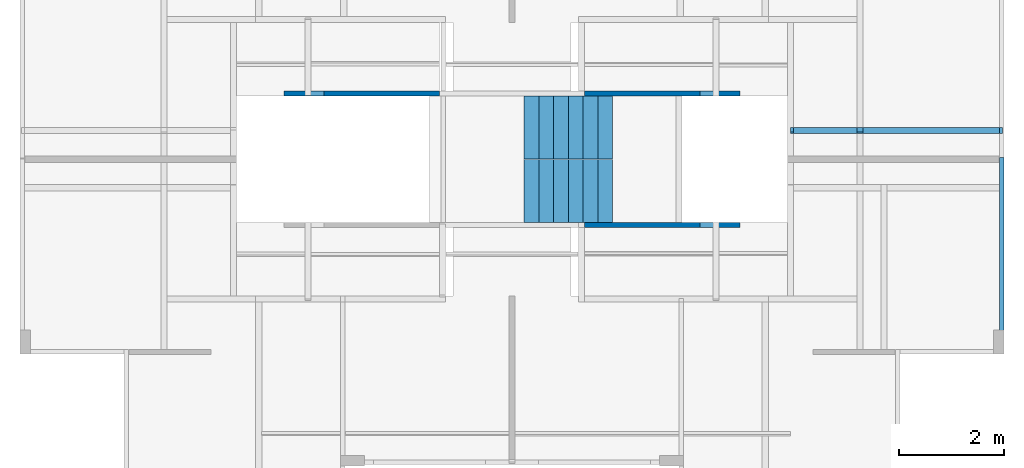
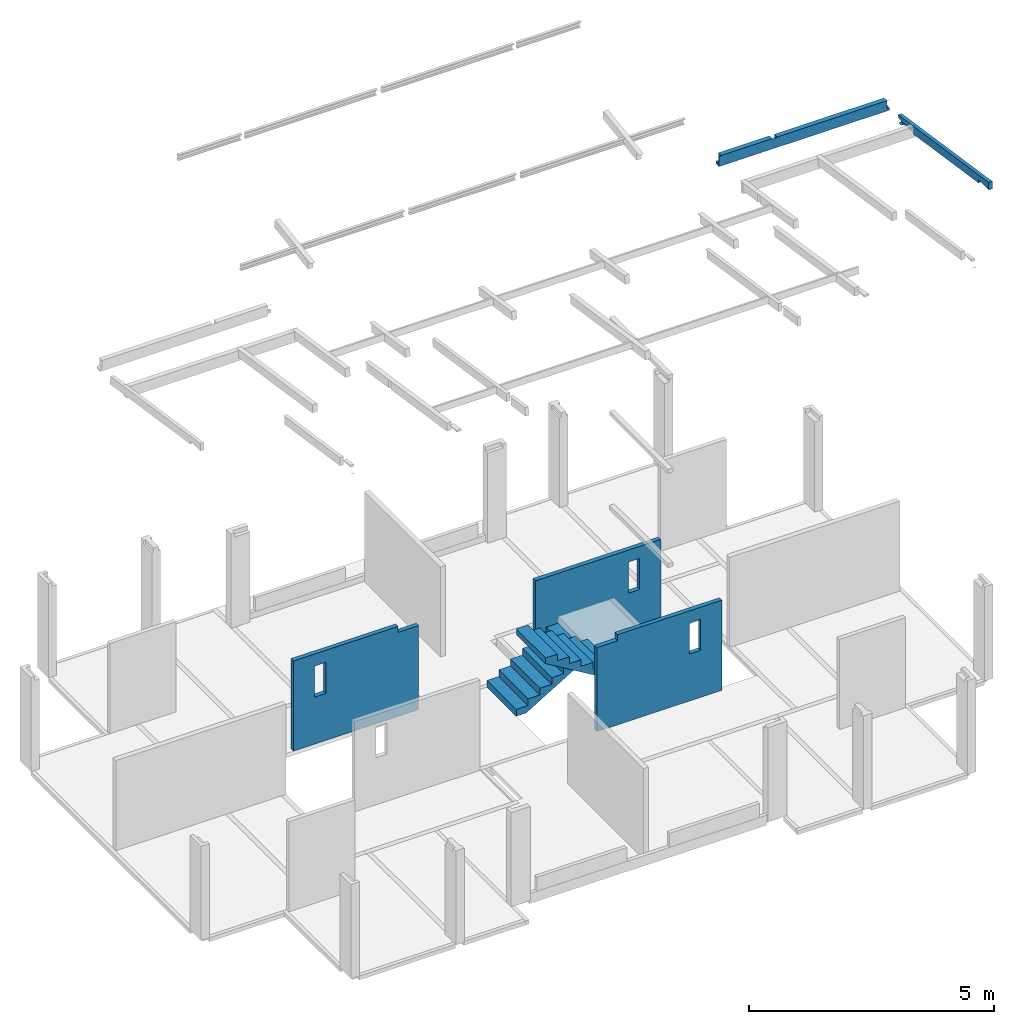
# One storey, part 9 of 9: 3 walls, 2 beams, 2 stair flights, 5 openings, 1 element without a shape of its own.
"""IFC4 building model written with IfcOpenShell, lengths in metres."""

from ifc_helpers import new_model, entity, si_unit, converted_unit, derived_unit, direction, frame, origin, place, context, subcontext, project, spatial, indexed_curve, outline, extrude, polygons, source, transform, mapped, material, type_object, type_shapes, element, aggregate, save


model = new_model("IFC4")

# Units and contexts
model_context = context("Model", 3, precision=1e-05, world=origin(), true_north=direction((6.123031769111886e-17, 1.0)))
body_context = subcontext(model_context, "Body", "Model", "MODEL_VIEW")
ifc_project = project(units=[si_unit("LENGTHUNIT", "METRE"), si_unit("AREAUNIT", "SQUARE_METRE"), si_unit("VOLUMEUNIT", "CUBIC_METRE"), converted_unit("PLANEANGLEUNIT", "DEGREE", entity("IfcRatioMeasure", 0.017453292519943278), si_unit("PLANEANGLEUNIT", "RADIAN"), dimensions=[0, 0, 0, 0, 0, 0, 0]), si_unit("MASSUNIT", "GRAM", prefix="KILO"), derived_unit("MASSDENSITYUNIT", [(si_unit("MASSUNIT", "GRAM", prefix="KILO"), 1), (si_unit("LENGTHUNIT", "METRE"), -3)]), derived_unit("IONCONCENTRATIONUNIT", [(si_unit("MASSUNIT", "GRAM", prefix="KILO"), 1), (si_unit("LENGTHUNIT", "METRE"), -3)]), derived_unit("MOMENTOFINERTIAUNIT", [(si_unit("LENGTHUNIT", "METRE"), 4)]), si_unit("TIMEUNIT", "SECOND"), si_unit("FREQUENCYUNIT", "HERTZ"), si_unit("THERMODYNAMICTEMPERATUREUNIT", "DEGREE_CELSIUS"), derived_unit("THERMALTRANSMITTANCEUNIT", [(si_unit("MASSUNIT", "GRAM", prefix="KILO"), 1), (si_unit("THERMODYNAMICTEMPERATUREUNIT", "KELVIN"), -1), (si_unit("TIMEUNIT", "SECOND"), -3)]), derived_unit("THERMALCONDUCTANCEUNIT", [(si_unit("MASSUNIT", "GRAM", prefix="KILO"), 1), (si_unit("THERMODYNAMICTEMPERATUREUNIT", "KELVIN"), -1), (si_unit("TIMEUNIT", "SECOND"), -3), (si_unit("LENGTHUNIT", "METRE"), 1)]), derived_unit("VOLUMETRICFLOWRATEUNIT", [(si_unit("LENGTHUNIT", "METRE"), 3), (si_unit("TIMEUNIT", "SECOND"), -1)]), derived_unit("MASSFLOWRATEUNIT", [(si_unit("MASSUNIT", "GRAM", prefix="KILO"), 1), (si_unit("TIMEUNIT", "SECOND"), -1)]), derived_unit("ROTATIONALFREQUENCYUNIT", [(si_unit("TIMEUNIT", "SECOND"), -1)]), si_unit("ELECTRICCURRENTUNIT", "AMPERE"), si_unit("ELECTRICVOLTAGEUNIT", "VOLT"), si_unit("POWERUNIT", "WATT"), si_unit("FORCEUNIT", "NEWTON", prefix="KILO"), si_unit("ILLUMINANCEUNIT", "LUX"), si_unit("LUMINOUSFLUXUNIT", "LUMEN"), si_unit("LUMINOUSINTENSITYUNIT", "CANDELA"), derived_unit("USERDEFINED", [(si_unit("MASSUNIT", "GRAM", prefix="KILO"), -1), (si_unit("LENGTHUNIT", "METRE"), -2), (si_unit("TIMEUNIT", "SECOND"), 3), (si_unit("LUMINOUSFLUXUNIT", "LUMEN"), 1)]), derived_unit("USERDEFINED", [(si_unit("MASSUNIT", "GRAM", prefix="KILO"), 1), (si_unit("TIMEUNIT", "SECOND"), -3), (si_unit("LENGTHUNIT", "METRE"), 3), (si_unit("ELECTRICCURRENTUNIT", "AMPERE"), -2)]), derived_unit("SOUNDPOWERUNIT", [(si_unit("MASSUNIT", "GRAM", prefix="KILO"), 1), (si_unit("TIMEUNIT", "SECOND"), -3), (si_unit("LENGTHUNIT", "METRE"), 2)]), derived_unit("SOUNDPRESSUREUNIT", [(si_unit("MASSUNIT", "GRAM", prefix="KILO"), 1), (si_unit("LENGTHUNIT", "METRE"), -1), (si_unit("TIMEUNIT", "SECOND"), -2)]), derived_unit("LINEARVELOCITYUNIT", [(si_unit("LENGTHUNIT", "METRE"), 1), (si_unit("TIMEUNIT", "SECOND"), -1)]), si_unit("PRESSUREUNIT", "PASCAL"), derived_unit("USERDEFINED", [(si_unit("MASSUNIT", "GRAM", prefix="KILO"), 1), (si_unit("LENGTHUNIT", "METRE"), -2), (si_unit("TIMEUNIT", "SECOND"), -2)]), derived_unit("LINEARFORCEUNIT", [(si_unit("MASSUNIT", "GRAM", prefix="KILO"), 1), (si_unit("TIMEUNIT", "SECOND"), -2)]), derived_unit("PLANARFORCEUNIT", [(si_unit("MASSUNIT", "GRAM", prefix="KILO"), 1), (si_unit("LENGTHUNIT", "METRE"), -1), (si_unit("TIMEUNIT", "SECOND"), -2)]), derived_unit("SPECIFICHEATCAPACITYUNIT", [(si_unit("THERMODYNAMICTEMPERATUREUNIT", "KELVIN"), -1), (si_unit("LENGTHUNIT", "METRE"), 2), (si_unit("TIMEUNIT", "SECOND"), -2)]), derived_unit("HEATINGVALUEUNIT", [(si_unit("LENGTHUNIT", "METRE"), 2), (si_unit("TIMEUNIT", "SECOND"), -2)]), derived_unit("VAPORPERMEABILITYUNIT", [(si_unit("LENGTHUNIT", "METRE"), -1), (si_unit("TIMEUNIT", "SECOND"), 1)]), derived_unit("DYNAMICVISCOSITYUNIT", [(si_unit("MASSUNIT", "GRAM", prefix="KILO"), 1), (si_unit("TIMEUNIT", "SECOND"), -1), (si_unit("LENGTHUNIT", "METRE"), -1)]), derived_unit("THERMALEXPANSIONCOEFFICIENTUNIT", [(si_unit("THERMODYNAMICTEMPERATUREUNIT", "KELVIN"), -1)]), derived_unit("MODULUSOFELASTICITYUNIT", [(si_unit("MASSUNIT", "GRAM", prefix="KILO"), 1), (si_unit("LENGTHUNIT", "METRE"), -1), (si_unit("TIMEUNIT", "SECOND"), -2)]), derived_unit("ISOTHERMALMOISTURECAPACITYUNIT", [(si_unit("LENGTHUNIT", "METRE"), 3), (si_unit("MASSUNIT", "GRAM", prefix="KILO"), -1)]), derived_unit("MOISTUREDIFFUSIVITYUNIT", [(si_unit("TIMEUNIT", "SECOND"), -1), (si_unit("LENGTHUNIT", "METRE"), 2)])], contexts=[model_context])

# Site, building, storey
site_placement = place(None, origin())
site = spatial("IfcSite", under=ifc_project, at=site_placement, Name="Default", CompositionType="ELEMENT")
building_placement = place(site_placement, origin())
building = spatial("IfcBuilding", under=site, at=building_placement, Name="Las nubes", CompositionType="ELEMENT")
storey_placement = place(building_placement, frame((0.0, 0.0, 2.3500000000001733)))
storey = spatial("IfcBuildingStorey", under=building, at=storey_placement, Name="PISO 2", CompositionType="ELEMENT", Elevation=2.3500000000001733)

# Beams
ifc_material_1 = material(Name="Concrete, Cast In Situ", Category="Materials")
beam_type_1 = type_object("IfcBeamType", Name="M_Concrete-Rectangular Beam:(0.085x0.20)", PredefinedType="BEAM", material=ifc_material_1)
shared_shape_1 = source(origin(), body_context, "Body", "Tessellation", [
    polygons([(3.248601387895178e-14, 3.704516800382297, -0.5556775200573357), (3.248601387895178e-14, 3.6724999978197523, -0.5508749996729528), (2.815454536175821e-14, 3.187499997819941, -0.4781249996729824), (2.815454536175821e-14, 3.1799999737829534, -0.47699999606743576), (0.0, 0.0, -2.1657342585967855e-15), (0.08500000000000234, 0.0, -2.1657342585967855e-15), (0.08500000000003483, 3.6724999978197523, -0.5508749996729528), (0.08500000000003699, 3.704516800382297, -0.5556775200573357), (0.08500000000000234, 0.0, -0.18699999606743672), (0.08500000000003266, 0.4225000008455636, -0.18699999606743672), (0.08500000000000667, 0.42250000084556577, -0.2656124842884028), (0.08500000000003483, 3.670043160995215, -0.7527439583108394), (0.08500000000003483, 3.6724999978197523, -0.7531124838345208), (0.08500000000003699, 3.674848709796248, -0.7534647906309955), (0.08500000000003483, 3.674956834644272, -0.7527439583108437), (3.248601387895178e-14, 3.67484870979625, -0.7534647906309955), (4.331468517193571e-15, 0.4225000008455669, -0.2656124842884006), (2.5988811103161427e-14, 3.0724999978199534, -0.6631124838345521), (0.05749999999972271, 3.0724999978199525, -0.6631124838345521), (0.05749999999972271, 3.5650834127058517, -0.7369999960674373), (3.248601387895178e-14, 3.565083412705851, -0.7369999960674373), (3.248601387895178e-14, 3.670043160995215, -0.7527439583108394), (3.248601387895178e-14, 3.6724999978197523, -0.7531124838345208), (3.248601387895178e-14, 3.677318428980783, -0.7369999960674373), (3.248601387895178e-14, 3.674956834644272, -0.7527439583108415), (0.05749999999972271, 3.6773184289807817, -0.7369999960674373), (0.05749999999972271, 3.0724999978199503, -0.6369999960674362), (2.5988811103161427e-14, 3.0724999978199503, -0.6369999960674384), (3.248601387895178e-14, 3.6923184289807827, -0.6369999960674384), (0.05749999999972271, 3.6923184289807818, -0.6369999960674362), (0.057499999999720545, 3.187499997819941, -0.6369999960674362), (4.331468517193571e-15, 0.4225000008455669, -0.18699999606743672), (0.0, 0.0, -0.18699999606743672)], [[[1, 2, 3, 4, 5, 6, 7, 8]], [[8, 7, 6, 9, 10, 11, 12, 13, 14, 15]], [[16, 14, 13, 12, 11, 17, 18, 19, 20, 21, 22, 23]], [[24, 25, 16, 23, 22, 21]], [[20, 26, 24, 21]], [[27, 28, 29, 30, 31]], [[28, 27, 19, 18]], [[27, 31, 30, 26, 20, 19]], [[1, 8, 15, 14, 16, 25, 24, 26, 30, 29]], [[5, 4, 3, 2, 1, 29, 28, 18, 17, 32, 33]], [[6, 5, 33, 9]], [[10, 32, 17, 11]], [[32, 10, 9, 33]]], closed=True),
])
type_shapes(beam_type_1, [shared_shape_1])
beam_1_placement = place(storey_placement, frame((18.587500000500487, -10.09750002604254, 12.386999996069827)))
element("IfcBeam", 1, at=beam_1_placement, inside=storey, type_object=beam_type_1, material=ifc_material_1, Name="M_Concrete-Rectangular Beam:(0.085x0.20)", ObjectType="M_Concrete-Rectangular Beam:(0.085x0.20)", PredefinedType="BEAM", context=body_context, shape_type="MappedRepresentation", body=[
    mapped(shared_shape_1, transform((0.0, 0.0, 0.0), scale=1.0)),
])
beam_type_2 = type_object("IfcBeamType", Name="M_Concrete-Rectangular Beam:(0.115x0.26)", PredefinedType="BEAM", material=ifc_material_1)
shared_shape_2 = source(origin(), body_context, "Body", "Tessellation", [
    polygons([(-2.1657342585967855e-15, 0.11500000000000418, 0.0), (-2.1657342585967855e-15, 0.052500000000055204, 2.1657342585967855e-15), (-2.1657342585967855e-15, 0.0, 0.0), (-2.1657342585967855e-15, 1.0828671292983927e-15, 0.25273873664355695), (-2.1657342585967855e-15, 0.028767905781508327, 0.06095269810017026), (-2.1657342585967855e-15, 0.05250000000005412, 0.06451251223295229), (-2.1657342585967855e-15, 0.1150000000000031, 0.07388751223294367), (4.029999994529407, 1.2994405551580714e-14, 0.0), (4.029999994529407, 0.11500000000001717, 0.0), (4.029999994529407, 0.11500000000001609, 0.07388751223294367), (4.029999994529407, 1.4077272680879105e-14, 0.05663751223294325), (-2.1657342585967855e-15, 1.0828671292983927e-15, 0.26000000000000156), (4.029999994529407, 1.4077272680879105e-14, 0.26000000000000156), (4.029999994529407, 0.007500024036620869, 0.26000000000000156), (3.972499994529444, 0.007500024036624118, 0.26000000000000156), (3.972499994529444, 0.11500000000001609, 0.26000000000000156), (1.37749893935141, 0.11500000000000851, 0.26000000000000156), (1.37749893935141, 0.007500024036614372, 0.26000000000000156), (1.2624989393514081, 0.0075000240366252, 0.26000000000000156), (1.2624989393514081, 0.11500000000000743, 0.26000000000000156), (0.05750000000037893, 0.11500000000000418, 0.26000000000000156), (0.05750000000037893, 0.007500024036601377, 0.26000000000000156), (-2.1657342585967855e-15, 0.007500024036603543, 0.26000000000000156), (-2.1657342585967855e-15, 1.0828671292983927e-15, 0.25887499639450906), (0.05750000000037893, 1.0828671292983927e-15, 0.25887499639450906), (0.0575000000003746, 1.0828671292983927e-15, 0.25273873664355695), (0.057500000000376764, 1.0828671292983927e-15, 2.1657342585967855e-15), (3.972499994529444, 1.4077272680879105e-14, 0.05663751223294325), (3.972499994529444, 1.4077272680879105e-14, 0.25887499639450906), (4.029999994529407, 1.4077272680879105e-14, 0.2588749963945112), (1.37749893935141, 5.4143356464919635e-15, 0.25273873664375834), (1.2624989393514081, 5.4143356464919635e-15, 0.25273873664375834), (1.2624989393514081, 5.4143356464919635e-15, 0.2588749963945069), (1.37749893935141, 5.4143356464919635e-15, 0.25887499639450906), (0.05750000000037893, 0.11500000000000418, 0.07388751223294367), (1.2624989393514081, 0.11500000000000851, 0.07388751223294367), (1.37749893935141, 0.11500000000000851, 0.0738875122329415), (3.972499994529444, 0.11500000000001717, 0.07388751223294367), (1.37749893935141, 0.028767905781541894, 0.06095269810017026), (1.2624989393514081, 0.028767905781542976, 0.06095269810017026), (1.262498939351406, 0.022910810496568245, 0.10000000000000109), (1.37749893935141, 0.022910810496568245, 0.10000000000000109), (0.05750000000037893, 0.02876790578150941, 0.060952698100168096)], [[[1, 2, 3, 4, 5, 6, 7]], [[8, 9, 10, 11]], [[12, 13, 14, 15, 16, 17, 18, 19, 20, 21, 22, 23]], [[13, 12, 24, 25, 26, 4, 3, 27, 8, 11, 28, 29, 30], [31, 32, 33, 34]], [[3, 2, 1, 9, 8, 27]], [[9, 1, 7, 35, 21, 20, 36, 37, 17, 16, 38, 10]], [[39, 40, 41, 32, 31, 42]], [[33, 19, 18, 34]], [[39, 42, 31, 34, 18, 17, 37]], [[40, 39, 37, 36]], [[32, 41, 40, 36, 20, 19, 33]], [[29, 15, 14, 30]], [[28, 11, 10, 38]], [[15, 29, 28, 38, 16]], [[26, 43, 5, 4]], [[22, 25, 24, 23]], [[43, 26, 25, 22, 21, 35]], [[5, 43, 35, 7, 6]], [[12, 23, 24]], [[14, 13, 30]]], closed=True),
])
type_shapes(beam_type_2, [shared_shape_2])
beam_2_placement = place(storey_placement, frame((14.61500000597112, -5.9400000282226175, 11.649999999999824)))
element("IfcBeam", 2, at=beam_2_placement, inside=storey, type_object=beam_type_2, material=ifc_material_1, Name="M_Concrete-Rectangular Beam:(0.115x0.26)", ObjectType="M_Concrete-Rectangular Beam:(0.115x0.26)", PredefinedType="BEAM", context=body_context, shape_type="MappedRepresentation", body=[
    mapped(shared_shape_2, transform((0.0, 0.0, 0.0), scale=1.0)),
])

# Wall, opening
ifc_material_2 = material(Name="Concrete - Cast-in-Place Concrete - 35 MPa", Category="Materials")
wall_type = type_object("IfcWallType", Name="Basic Wall:MURO 10cm", PredefinedType="STANDARD")
wall_1_placement = place(storey_placement, frame((13.657500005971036, -5.175000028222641, 0.0), z_axis=(0.0, 0.0, 1.0), x_axis=(-1.0, 0.0, 0.0)))
wall_1 = element("IfcWall", 3, at=wall_1_placement, inside=storey, type_object=wall_type, material=ifc_material_2, Name="Basic Wall:MURO 10cm", ObjectType="Basic Wall:MURO 10cm", PredefinedType="NOTDEFINED", context=body_context, shape_type="Tessellation", body=[
    polygons([(4.2325258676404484e-16, -0.050000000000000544, -2.707167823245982e-16), (2.4600000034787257, -0.050000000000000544, -2.707167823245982e-16), (2.955000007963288, -0.050000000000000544, -2.707167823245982e-16), (2.955000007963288, -0.050000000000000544, 2.1000000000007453), (2.955000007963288, -0.050000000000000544, 2.2499999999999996), (2.455000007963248, -0.050000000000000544, 2.249999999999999), (4.2325258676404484e-16, -0.050000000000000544, 2.2499999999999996), (0.7651124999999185, -0.050000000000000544, 1.173712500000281), (0.4999999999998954, -0.050000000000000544, 1.173712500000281), (0.4999999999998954, -0.050000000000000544, 1.9500000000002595), (0.7651124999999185, -0.050000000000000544, 1.9500000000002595), (9.344534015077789e-17, 0.04999999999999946, -2.707167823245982e-16), (9.344534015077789e-17, 0.04999999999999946, 2.2499999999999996), (2.4550000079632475, 0.04999999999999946, 2.2499999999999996), (2.9550000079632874, 0.04999999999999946, 2.2499999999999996), (2.9550000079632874, 0.04999999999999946, 2.1000000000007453), (2.9550000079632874, 0.04999999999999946, -2.707167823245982e-16), (2.4600000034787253, 0.04999999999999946, -2.707167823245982e-16), (0.7651124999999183, 0.04999999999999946, 1.173712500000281), (0.7651124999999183, 0.04999999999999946, 1.9500000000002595), (0.4999999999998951, 0.04999999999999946, 1.9500000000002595), (0.4999999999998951, 0.04999999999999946, 1.173712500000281)], [[[1, 2, 3, 4, 5, 6, 7], [8, 9, 10, 11]], [[12, 13, 14, 15, 16, 17, 18], [19, 20, 21, 22]], [[3, 2, 1, 12, 18, 17]], [[5, 4, 3, 17, 16, 15]], [[7, 6, 5, 15, 14, 13]], [[1, 7, 13, 12]], [[9, 8, 19, 22]], [[10, 9, 22, 21]], [[11, 10, 21, 20]], [[8, 11, 20, 19]]], closed=True),
])
opening_1_placement = place(wall_1_placement, origin())
element("IfcOpeningElement", 4, at=opening_1_placement, cuts=wall_1, Name="Basic Wall:MURO 10cm", PredefinedType="OPENING", context=body_context, shape_type="SweptSolid", body=[
    extrude(outline(indexed_curve([(-0.3881437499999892, -0.1325562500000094), (0.3881437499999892, -0.1325562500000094), (0.3881437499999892, 0.13255625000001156), (-0.3881437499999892, 0.13255625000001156), (-0.3881437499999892, -0.1325562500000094)], self_intersect=False)), frame((0.6325562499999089, 0.050000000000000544, 1.5618562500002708), z_axis=(0.0, -1.0, 0.0), x_axis=(0.0, 0.0, 1.0)), (0.0, 0.0, 1.0), 0.1),
])

# Wall, openings
wall_2_placement = place(storey_placement, frame((7.942500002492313, -5.175000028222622, 0.0), z_axis=(0.0, 0.0, 1.0), x_axis=(-1.0, 0.0, 0.0)))
wall_2 = element("IfcWall", 5, at=wall_2_placement, inside=storey, type_object=wall_type, material=ifc_material_2, Name="Basic Wall:MURO 10cm", ObjectType="Basic Wall:MURO 10cm", PredefinedType="NOTDEFINED", context=body_context, shape_type="Tessellation", body=[
    polygons([(2.9550000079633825, -0.04999999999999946, 2.2499999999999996), (0.49999999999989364, -0.04999999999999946, 2.2499999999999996), (0.4900000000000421, -0.04999999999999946, 2.2499999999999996), (0.4900000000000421, -0.04999999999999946, 2.099999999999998), (8.00730484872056e-16, -0.04999999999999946, 2.099999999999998), (8.00730484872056e-16, -0.04999999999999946, -2.707167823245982e-16), (0.495000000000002, -0.04999999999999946, 0.0), (2.9550000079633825, -0.04999999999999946, -2.707167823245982e-16), (2.4550000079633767, -0.04999999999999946, 1.9500000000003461), (2.4550000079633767, -0.04999999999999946, 1.1737125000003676), (2.189887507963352, -0.04999999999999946, 1.1737125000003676), (2.189887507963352, -0.04999999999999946, 1.9500000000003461), (2.9550000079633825, 0.050000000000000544, 2.2499999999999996), (2.9550000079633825, 0.050000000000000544, -2.707167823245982e-16), (0.49500000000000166, 0.050000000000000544, -2.707167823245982e-16), (4.78288660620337e-16, 0.050000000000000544, -2.707167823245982e-16), (4.78288660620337e-16, 0.050000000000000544, 2.099999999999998), (0.4900000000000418, 0.050000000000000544, 2.099999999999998), (0.4900000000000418, 0.050000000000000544, 2.2499999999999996), (0.4999999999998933, 0.050000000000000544, 2.2499999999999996), (2.4550000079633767, 0.050000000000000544, 1.9500000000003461), (2.1898875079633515, 0.050000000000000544, 1.9500000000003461), (2.1898875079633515, 0.050000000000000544, 1.1737125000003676), (2.4550000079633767, 0.050000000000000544, 1.1737125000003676)], [[[1, 2, 3, 4, 5, 6, 7, 8], [9, 10, 11, 12]], [[13, 14, 15, 16, 17, 18, 19, 20], [21, 22, 23, 24]], [[3, 2, 1, 13, 20, 19]], [[5, 4, 18, 17]], [[4, 3, 19, 18]], [[1, 8, 14, 13]], [[6, 5, 17, 16]], [[8, 7, 6, 16, 15, 14]], [[10, 9, 21, 24]], [[11, 10, 24, 23]], [[12, 11, 23, 22]], [[9, 12, 22, 21]]], closed=True),
])
opening_2_placement = place(wall_2_placement, origin())
element("IfcOpeningElement", 6, at=opening_2_placement, cuts=wall_2, Name="Basic Wall:MURO 10cm", PredefinedType="OPENING", context=body_context, shape_type="SweptSolid", body=[
    extrude(outline(indexed_curve([(-0.13255625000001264, -0.3881437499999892), (0.13255625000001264, -0.3881437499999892), (0.13255625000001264, 0.3881437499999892), (-0.13255625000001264, 0.3881437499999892), (-0.13255625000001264, -0.3881437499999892)], self_intersect=False)), frame((2.3224437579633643, 0.04999999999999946, 1.5618562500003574), z_axis=(0.0, -1.0, 0.0), x_axis=(-1.0, 0.0, 0.0)), (0.0, 0.0, 1.0), 0.1),
])
opening_3_placement = place(wall_2_placement, origin())
element("IfcOpeningElement", 7, at=opening_3_placement, cuts=wall_2, Name="Basic Wall:MURO 10cm", PredefinedType="OPENING", context=body_context, shape_type="SweptSolid", body=[
    extrude(outline(indexed_curve([(-0.2450000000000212, -0.07500000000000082), (0.2450000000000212, -0.07500000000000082), (0.2450000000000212, 0.07500000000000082), (-0.2450000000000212, 0.07500000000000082), (-0.2450000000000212, -0.07500000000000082)], self_intersect=False)), frame((0.2450000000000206, 0.04999999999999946, 2.174999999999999), z_axis=(0.0, -1.0, 0.0), x_axis=(-1.0, 0.0, 0.0)), (0.0, 0.0, 1.0), 0.1),
])

wall_3_placement = place(storey_placement, frame((10.702499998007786, -7.675000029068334, 0.0)))
wall_3 = element("IfcWall", 8, at=wall_3_placement, inside=storey, type_object=wall_type, material=ifc_material_2, Name="Basic Wall:MURO 10cm", ObjectType="Basic Wall:MURO 10cm", PredefinedType="NOTDEFINED", context=body_context, shape_type="Tessellation", body=[
    polygons([(2.9550000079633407, -0.04999999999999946, 2.2499999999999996), (0.4900000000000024, -0.04999999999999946, 2.2499999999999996), (0.4900000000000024, -0.04999999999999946, 2.099999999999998), (1.159822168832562e-15, -0.050000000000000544, 2.099999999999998), (1.159822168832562e-15, -0.050000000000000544, -2.707167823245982e-16), (2.9550000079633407, -0.04999999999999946, -2.707167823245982e-16), (2.189887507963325, -0.04999999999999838, 1.173712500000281), (2.189887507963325, -0.04999999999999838, 1.9500000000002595), (2.455000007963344, -0.04999999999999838, 1.9500000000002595), (2.455000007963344, -0.04999999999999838, 1.173712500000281), (2.9550000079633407, 0.04999999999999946, 2.2499999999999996), (2.9550000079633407, 0.04999999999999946, -2.707167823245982e-16), (9.765959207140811e-16, 0.050000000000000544, -2.707167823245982e-16), (9.765959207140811e-16, 0.050000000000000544, 2.099999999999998), (0.49000000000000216, 0.050000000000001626, 2.099999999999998), (0.49000000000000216, 0.050000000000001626, 2.2499999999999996), (2.189887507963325, 0.050000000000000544, 1.173712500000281), (2.455000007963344, 0.050000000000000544, 1.173712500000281), (2.455000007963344, 0.050000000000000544, 1.9500000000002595), (2.189887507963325, 0.050000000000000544, 1.9500000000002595)], [[[1, 2, 3, 4, 5, 6], [7, 8, 9, 10]], [[11, 12, 13, 14, 15, 16], [17, 18, 19, 20]], [[2, 1, 11, 16]], [[4, 3, 15, 14]], [[3, 2, 16, 15]], [[1, 6, 12, 11]], [[5, 4, 14, 13]], [[6, 5, 13, 12]], [[8, 7, 17, 20]], [[9, 8, 20, 19]], [[10, 9, 19, 18]], [[7, 10, 18, 17]]], closed=True),
])
opening_4_placement = place(wall_3_placement, origin())
element("IfcOpeningElement", 9, at=opening_4_placement, cuts=wall_3, Name="Basic Wall:MURO 10cm", PredefinedType="OPENING", context=body_context, shape_type="SweptSolid", body=[
    extrude(outline(indexed_curve([(-0.1325562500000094, -0.3881437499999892), (0.13255625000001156, -0.3881437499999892), (0.13255625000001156, 0.3881437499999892), (-0.1325562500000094, 0.3881437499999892), (-0.1325562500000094, -0.3881437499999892)], self_intersect=False)), frame((2.3224437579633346, 0.04999999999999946, 1.5618562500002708), z_axis=(0.0, -1.0, 0.0), x_axis=(1.0, 0.0, 0.0)), (0.0, 0.0, 1.0), 0.1),
])
opening_5_placement = place(wall_3_placement, origin())
element("IfcOpeningElement", 10, at=opening_5_placement, cuts=wall_3, Name="Basic Wall:MURO 10cm", PredefinedType="OPENING", context=body_context, shape_type="SweptSolid", body=[
    extrude(outline(indexed_curve([(-0.2450000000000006, -0.07500000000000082), (0.2450000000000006, -0.07500000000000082), (0.2450000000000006, 0.07500000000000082), (-0.2450000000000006, 0.07500000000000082), (-0.2450000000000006, -0.07500000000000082)], self_intersect=False)), frame((0.2450000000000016, 0.050000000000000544, 2.174999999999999), z_axis=(0.0, -1.0, 0.0), x_axis=(-1.0, 0.0, 0.0)), (0.0, 0.0, 1.0), 0.1),
])

# Stair, stair flights
stair_type = type_object("IfcStairType", Name="Cast-In-Place Stair:B1080_Escalera Monolitica en Concreto", PredefinedType="HALF_TURN_STAIR")
stair_placement = place(storey_placement, origin())
stair = element("IfcStair", 11, at=stair_placement, inside=storey, type_object=stair_type, Name="Cast-In-Place Stair:Stair", ObjectType="Cast-In-Place Stair:B1080_Escalera Monolitica en Concreto", PredefinedType="HALF_TURN_STAIR")
stair_flight_type = type_object("IfcStairFlightType", Name="Monolithic Run:120mm Depth", PredefinedType="STRAIGHT")
stair_flight_1_placement = place(stair_placement, frame((9.552500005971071, -6.4250000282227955, 0.0)))
stair_flight_1 = element("IfcStairFlight", 12, at=stair_flight_1_placement, type_object=stair_flight_type, material=ifc_material_1, Name="Cast-In-Place Stair:Stair:524135 Run 1", ObjectType="Monolithic Run:120mm Depth", PredefinedType="STRAIGHT", context=body_context, shape_type="Tessellation", body=[
    polygons([(0.27999999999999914, 1.2000000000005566, 0.16785714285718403), (-1.0828671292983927e-15, 1.2000000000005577, 0.16785714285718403), (-1.0828671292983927e-15, 5.4143356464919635e-15, 0.16785714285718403), (0.279999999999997, 4.331468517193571e-15, 0.16785714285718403), (0.2800000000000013, 1.2000000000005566, 0.027945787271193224), (0.233384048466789, 1.2000000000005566, 0.0), (-1.0828671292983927e-15, 1.2000000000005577, 0.0), (-1.0828671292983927e-15, 5.4143356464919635e-15, 0.0), (0.23338404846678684, 4.331468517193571e-15, 0.0), (0.279999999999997, 4.331468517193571e-15, 0.02794578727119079), (0.5599999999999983, 1.2000000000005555, 0.3357142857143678), (0.279999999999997, 1.2000000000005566, 0.3357142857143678), (0.279999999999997, 4.331468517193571e-15, 0.3357142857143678), (0.5599999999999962, 3.2486013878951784e-15, 0.3357142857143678), (0.5600000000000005, 1.2000000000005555, 0.19580293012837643), (0.559999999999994, 3.2486013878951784e-15, 0.1958029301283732), (0.8399999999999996, 1.2000000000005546, 0.5035714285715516), (0.5599999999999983, 1.2000000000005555, 0.5035714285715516), (0.5599999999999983, 3.2486013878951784e-15, 0.5035714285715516), (0.8399999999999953, 2.1657342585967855e-15, 0.5035714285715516), (0.8400000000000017, 1.2000000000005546, 0.36366007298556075), (0.8399999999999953, 3.2486013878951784e-15, 0.36366007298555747), (1.1199999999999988, 1.2000000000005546, 0.6714285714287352), (0.8399999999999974, 1.2000000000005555, 0.6714285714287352), (0.8399999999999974, 3.2486013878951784e-15, 0.6714285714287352), (1.1199999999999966, 2.1657342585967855e-15, 0.6714285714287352), (1.120000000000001, 1.2000000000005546, 0.531517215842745), (1.1199999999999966, 2.1657342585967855e-15, 0.5315172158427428), (1.399999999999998, 1.2000000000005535, 0.839285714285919), (1.1199999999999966, 1.2000000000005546, 0.839285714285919), (1.1199999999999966, 2.1657342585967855e-15, 0.839285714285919), (1.3999999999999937, 1.0828671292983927e-15, 0.839285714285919), (1.4000000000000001, 1.2000000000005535, 0.6993743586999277), (1.3999999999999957, 1.0828671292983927e-15, 0.6993743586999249), (1.6799999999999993, 1.2000000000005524, 1.0071428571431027), (1.3999999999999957, 1.2000000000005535, 1.0071428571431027), (1.3999999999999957, 1.0828671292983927e-15, 1.0071428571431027), (1.6799999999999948, 0.0, 1.0071428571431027), (1.6799999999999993, 1.2000000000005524, 0.8672315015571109), (1.6799999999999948, 0.0, 0.8672315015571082)], [[[1, 2, 3, 4]], [[2, 1, 5, 6, 7]], [[3, 2, 7, 8]], [[4, 3, 8, 9, 10]], [[11, 12, 13, 14]], [[12, 11, 15, 5, 1]], [[1, 4, 13, 12]], [[14, 13, 4, 10, 16]], [[17, 18, 19, 20]], [[18, 17, 21, 15, 11]], [[11, 14, 19, 18]], [[20, 19, 14, 16, 22]], [[23, 24, 25, 26]], [[24, 23, 27, 21, 17]], [[17, 20, 25, 24]], [[26, 25, 20, 22, 28]], [[29, 30, 31, 32]], [[30, 29, 33, 27, 23]], [[23, 26, 31, 30]], [[32, 31, 26, 28, 34]], [[35, 36, 37, 38]], [[36, 35, 39, 33, 29]], [[29, 32, 37, 36]], [[38, 37, 32, 34, 40]], [[35, 38, 40, 39]], [[8, 7, 6, 9]], [[9, 6, 5, 15, 21, 27, 33, 39, 40, 34, 28, 22, 16, 10]]], closed=True),
])
stair_flight_2_placement = place(stair_placement, frame((9.552500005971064, -7.625000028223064, 0.0)))
stair_flight_2 = element("IfcStairFlight", 13, at=stair_flight_2_placement, type_object=stair_flight_type, material=ifc_material_1, Name="Cast-In-Place Stair:Stair:524135 Run 2", ObjectType="Monolithic Run:120mm Depth", PredefinedType="STRAIGHT", context=body_context, shape_type="Tessellation", body=[
    polygons([(1.6799999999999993, 0.0, 1.3428571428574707), (1.6799999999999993, 1.1990000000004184, 1.3428571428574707), (1.6467861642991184, 1.1990000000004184, 1.3428571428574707), (1.4000000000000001, 1.1990000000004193, 1.3428571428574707), (1.399999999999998, 1.0828671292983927e-15, 1.3428571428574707), (1.6467861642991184, 0.0, 1.3428571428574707), (1.399999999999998, 1.0828671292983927e-15, 1.2029457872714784), (1.6467861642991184, 0.0, 1.0550000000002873), (1.6799999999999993, 0.0, 1.0550000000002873), (1.6799999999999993, 0.0, 1.1750000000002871), (1.6799999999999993, 1.1990000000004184, 1.0550000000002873), (1.6467861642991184, 1.1990000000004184, 1.0550000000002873), (1.4000000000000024, 1.1990000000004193, 1.2029457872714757), (1.1199999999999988, 2.1657342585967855e-15, 1.5107142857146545), (1.399999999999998, 1.0828671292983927e-15, 1.510714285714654), (1.399999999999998, 1.1990000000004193, 1.510714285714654), (1.1199999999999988, 1.1990000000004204, 1.5107142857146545), (1.1199999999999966, 1.0828671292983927e-15, 1.3708029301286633), (1.120000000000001, 1.1990000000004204, 1.370802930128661), (0.8399999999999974, 2.1657342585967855e-15, 1.6785714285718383), (1.1199999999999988, 1.0828671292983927e-15, 1.6785714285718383), (1.1199999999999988, 1.1990000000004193, 1.6785714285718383), (0.8399999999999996, 1.1990000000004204, 1.6785714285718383), (0.8399999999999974, 1.0828671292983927e-15, 1.5386600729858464), (0.8400000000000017, 1.1990000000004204, 1.5386600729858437), (0.5599999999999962, 3.2486013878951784e-15, 1.846428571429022), (0.8399999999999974, 1.0828671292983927e-15, 1.8464285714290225), (0.8399999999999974, 1.1990000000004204, 1.8464285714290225), (0.5600000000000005, 1.1990000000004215, 1.846428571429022), (0.5599999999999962, 3.2486013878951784e-15, 1.7065172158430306), (0.5600000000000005, 1.1990000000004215, 1.706517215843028), (0.27999999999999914, 4.331468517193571e-15, 2.014285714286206), (0.5599999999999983, 3.2486013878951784e-15, 2.014285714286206), (0.5599999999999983, 1.1990000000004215, 2.014285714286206), (0.2800000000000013, 1.1990000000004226, 2.014285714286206), (0.2799999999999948, 4.331468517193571e-15, 1.874374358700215), (0.2800000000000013, 1.1990000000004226, 1.8743743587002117), (1.0828671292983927e-15, 5.4143356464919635e-15, 2.1821428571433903), (0.2800000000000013, 4.331468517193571e-15, 2.1821428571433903), (0.2800000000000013, 1.1990000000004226, 2.1821428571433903), (3.2486013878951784e-15, 1.1990000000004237, 2.1821428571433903), (1.0828671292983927e-15, 5.4143356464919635e-15, 2.0422315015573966), (3.2486013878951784e-15, 1.1990000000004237, 2.0422315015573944)], [[[1, 2, 3, 4, 5, 6]], [[5, 7, 8, 9, 10, 1, 6]], [[2, 1, 10, 9, 11]], [[2, 11, 12, 13, 4, 3]], [[14, 15, 16, 17]], [[15, 14, 18, 7, 5]], [[16, 15, 5, 4]], [[17, 16, 4, 13, 19]], [[20, 21, 22, 23]], [[21, 20, 24, 18, 14]], [[22, 21, 14, 17]], [[23, 22, 17, 19, 25]], [[26, 27, 28, 29]], [[27, 26, 30, 24, 20]], [[28, 27, 20, 23]], [[29, 28, 23, 25, 31]], [[32, 33, 34, 35]], [[33, 32, 36, 30, 26]], [[34, 33, 26, 29]], [[35, 34, 29, 31, 37]], [[38, 39, 40, 41]], [[39, 38, 42, 36, 32]], [[40, 39, 32, 35]], [[41, 40, 35, 37, 43]], [[38, 41, 43, 42]], [[12, 8, 7, 18, 24, 30, 36, 42, 43, 37, 31, 25, 19, 13]], [[8, 12, 11, 9]]], closed=True),
])
aggregate(stair, [stair_flight_1, stair_flight_2])

save(model, "model.ifc")
